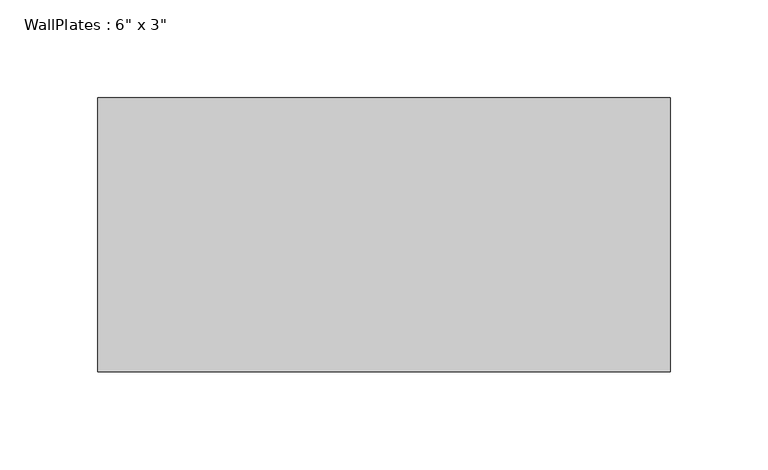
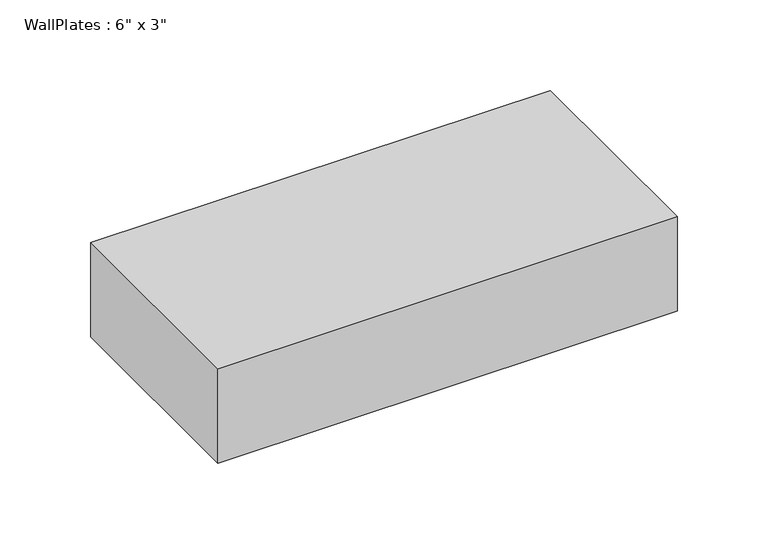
"""IFC4 building model written with IfcOpenShell, lengths in millimetres: beam geometry."""

import ifcopenshell
import ifcopenshell.guid

model = None  # the IFC model being written
_history = None  # IfcOwnerHistory: only IFC2X3 demands one
_inside = {}  # id of a spatial element -> (the spatial element, [elements in it])
_under = {}  # id of a project, library or spatial element -> (it, [spatial elements below it])
_declared = {}  # id of a project -> (the project, [libraries it declares])
_typed = {}  # id of a type object -> (the type object, [elements of that type])
_made_of = {}  # id of a material, layer set ... -> (it, [elements and type objects made of it])


def new_model(schema):
    """Start an empty IFC model of exactly this schema.

    Asked for "IFC4X3", IfcOpenShell would pick the latest addendum, in which some entities
    have other attributes; the version numbers below select the first issue.
    IFC2X3 requires an IfcOwnerHistory on every rooted entity: one is made here for all.
    """
    global model, _history
    if schema == "IFC4X3":
        model = ifcopenshell.file(schema_version=(4, 3, 0, 0))
    else:
        model = ifcopenshell.file(schema=schema)
    _inside.clear()
    _under.clear()
    _declared.clear()
    _typed.clear()
    _made_of.clear()
    _history = None
    if model.schema == "IFC2X3":
        org = make("IfcOrganization", Name="unknown")
        user = make(
            "IfcPersonAndOrganization",
            ThePerson=make("IfcPerson", FamilyName="unknown"),
            TheOrganization=org,
        )
        app = make(
            "IfcApplication",
            ApplicationDeveloper=org,
            Version="unknown",
            ApplicationFullName="unknown",
            ApplicationIdentifier="unknown",
        )
        _history = make(
            "IfcOwnerHistory",
            OwningUser=user,
            OwningApplication=app,
            ChangeAction="ADDED",
            CreationDate=0,
        )
    return model


def make(cls, **values):
    """One entity of the class cls with the attributes given. An attribute that is None is left unset."""
    return model.create_entity(
        cls, **{name: value for name, value in values.items() if value is not None}
    )


def rooted(cls, **values):
    """An entity with a GlobalId (a new one), such as an element, a storey or a relation."""
    return make(cls, GlobalId=ifcopenshell.guid.new(), OwnerHistory=_history, **values)


def si_unit(unit_type, name, prefix=None):
    """IfcSIUnit, for example si_unit("LENGTHUNIT", "METRE", prefix="MILLI")."""
    return make("IfcSIUnit", UnitType=unit_type, Prefix=prefix, Name=name)


def assignment(units):
    """IfcUnitAssignment: the units of a project."""
    return None if units is None else make("IfcUnitAssignment", Units=units)


def point(xyz):
    """IfcCartesianPoint."""
    return None if xyz is None else make("IfcCartesianPoint", Coordinates=xyz)


def direction(xyz):
    """IfcDirection."""
    return None if xyz is None else make("IfcDirection", DirectionRatios=xyz)


def frame(location, z_axis=None, x_axis=None):
    """IfcAxis2Placement3D, a coordinate frame: its origin and axes. An axis left out is left unset."""
    return make(
        "IfcAxis2Placement3D",
        Location=point(location),
        Axis=direction(z_axis),
        RefDirection=direction(x_axis),
    )


def origin():
    """The frame at (0, 0, 0) with its axes left unset."""
    return frame((0.0, 0.0, 0.0))


def place(relative_to, where):
    """IfcLocalPlacement: puts the frame where relative to a parent placement (None: the world)."""
    return make(
        "IfcLocalPlacement", PlacementRelTo=relative_to, RelativePlacement=where
    )


def context(
    kind, dimensions, precision=None, world=None, true_north=None, identifier=None
):
    """IfcGeometricRepresentationContext, for example the 3D "Model" context."""
    return make(
        "IfcGeometricRepresentationContext",
        ContextIdentifier=identifier,
        ContextType=kind,
        CoordinateSpaceDimension=dimensions,
        Precision=precision,
        WorldCoordinateSystem=world,
        TrueNorth=true_north,
    )


def project(units=None, contexts=None):
    """IfcProject with its units and contexts."""
    return rooted(
        "IfcProject",
        Name="project",
        RepresentationContexts=contexts,
        UnitsInContext=assignment(units),
    )


def spatial(cls, under=None, at=None, **own):
    """A site, building, storey or space (cls), placed at a placement, below another one or the project."""
    s = rooted(cls, ObjectPlacement=at, **own)
    if under is not None:
        _under.setdefault(under.id(), (under, []))[1].append(s)
    return s


def polyline(points):
    """IfcPolyline through the points."""
    return make("IfcPolyline", Points=[point(p) for p in points])


def outline(outer, holes=None, kind="AREA"):
    """IfcArbitraryClosedProfileDef: a profile drawn as a closed curve; with holes, ...WithVoids."""
    if holes is None:
        return make("IfcArbitraryClosedProfileDef", ProfileType=kind, OuterCurve=outer)
    return make(
        "IfcArbitraryProfileDefWithVoids",
        ProfileType=kind,
        OuterCurve=outer,
        InnerCurves=holes,
    )


def extrude(swept, where, along, depth):
    """IfcExtrudedAreaSolid: the profile swept, set in the frame where, extruded along a direction by depth."""
    return make(
        "IfcExtrudedAreaSolid",
        SweptArea=swept,
        Position=where,
        ExtrudedDirection=direction(along),
        Depth=depth,
    )


def shape(context_of_items, identifier, shape_type, items):
    """IfcShapeRepresentation: the items that make up one representation, for example the "Body"."""
    return make(
        "IfcShapeRepresentation",
        ContextOfItems=context_of_items,
        RepresentationIdentifier=identifier,
        RepresentationType=shape_type,
        Items=items,
    )


def source(mapping_origin, context_of_items, identifier, shape_type, items):
    """IfcRepresentationMap: a shape defined once, which mapped items show again and again."""
    return make(
        "IfcRepresentationMap",
        MappingOrigin=mapping_origin,
        MappedRepresentation=shape(context_of_items, identifier, shape_type, items),
    )


def transform(
    local_origin,
    x_axis=None,
    y_axis=None,
    z_axis=None,
    scale=None,
    scale2=None,
    scale3=None,
    uniform=True,
):
    """IfcCartesianTransformationOperator3D, or its non-uniform kind. x_axis, y_axis, z_axis: its Axis1, 2, 3."""
    if uniform:
        return make(
            "IfcCartesianTransformationOperator3D",
            Axis1=direction(x_axis),
            Axis2=direction(y_axis),
            LocalOrigin=point(local_origin),
            Scale=scale,
            Axis3=direction(z_axis),
        )
    return make(
        "IfcCartesianTransformationOperator3DnonUniform",
        Axis1=direction(x_axis),
        Axis2=direction(y_axis),
        LocalOrigin=point(local_origin),
        Scale=scale,
        Axis3=direction(z_axis),
        Scale2=scale2,
        Scale3=scale3,
    )


def mapped(mapping_source, mapping_target):
    """IfcMappedItem: shows the shape of a source again, moved by a transform."""
    return make(
        "IfcMappedItem", MappingSource=mapping_source, MappingTarget=mapping_target
    )


def made_of(thing, what):
    """Note that an element or type object is made of a material, layer set ...; save() writes the relation."""
    if what is not None:
        _made_of.setdefault(what.id(), (what, []))[1].append(thing)
    return thing


def element(
    cls,
    number,
    at=None,
    inside=None,
    cuts=None,
    type_object=None,
    material=None,
    context=None,
    identifier="Body",
    shape_type=None,
    held_by="IfcProductDefinitionShape",
    body=None,
    shapes=None,
    **own,
):
    """One element of the class cls, such as IfcWall. Its Tag is "e" and its number.

    at: its placement. inside: the storey or other place that contains it. cuts: it is an
    opening in that element (IfcRelVoidsElement). A single representation is given by context,
    identifier, shape_type and body (its items); several are given by shapes. held_by: the class
    of the entity that holds the representations. save() writes the other relations.
    """
    e = rooted(cls, Tag="e%d" % number, ObjectPlacement=at, **own)
    if body is not None:
        shapes = [shape(context, identifier, shape_type, body)]
    if shapes is not None:
        e.Representation = make(held_by, Representations=shapes)
    if inside is not None:
        _inside.setdefault(inside.id(), (inside, []))[1].append(e)
    if cuts is not None:
        rooted(
            "IfcRelVoidsElement", RelatingBuildingElement=cuts, RelatedOpeningElement=e
        )
    if type_object is not None:
        _typed.setdefault(type_object.id(), (type_object, []))[1].append(e)
    return made_of(e, material)


def aggregate(whole, parts):
    """IfcRelAggregates: a whole, such as a stair, and the parts it consists of."""
    return rooted("IfcRelAggregates", RelatingObject=whole, RelatedObjects=parts)


def save(model, path):
    """Write the relations noted so far, then the file.

    IfcRelAggregates (storeys below a building ...), IfcRelContainedInSpatialStructure (elements
    in a storey), IfcRelDefinesByType, IfcRelAssociatesMaterial and IfcRelDeclares: one each for
    every whole, place, type object, material and project.
    """
    for whole, parts in _under.values():
        aggregate(whole, parts)
    for where, things in _inside.values():
        rooted(
            "IfcRelContainedInSpatialStructure",
            RelatedElements=things,
            RelatingStructure=where,
        )
    for kind, things in _typed.values():
        rooted("IfcRelDefinesByType", RelatedObjects=things, RelatingType=kind)
    for what, things in _made_of.values():
        rooted("IfcRelAssociatesMaterial", RelatedObjects=things, RelatingMaterial=what)
    for by, libraries in _declared.values():
        rooted("IfcRelDeclares", RelatingContext=by, RelatedDefinitions=libraries)
    model.write(path)


def beam_3e93aa5a(model_context):
    return source(origin(), model_context, "Body", "SweptSolid", [
        extrude(outline(polyline([(-146.055, -69.85), (-146.055, 69.85), (146.055, 69.85), (146.055, -69.85), (-146.055, -69.85)])), frame((0.0, 0.0, -31.75), z_axis=(0.0, 0.0, 1.0), x_axis=(1.0, 0.0, 0.0)), (0.0, 0.0, 1.0), 63.5),
    ])


if __name__ == "__main__":
    model = new_model("IFC4")
    model_context = context("Model", 3, world=origin())
    ifc_project = project(units=[si_unit("LENGTHUNIT", "METRE", prefix="MILLI")], contexts=[model_context])
    site = spatial("IfcSite", under=ifc_project)
    building = spatial("IfcBuilding", under=site)
    placement = place(None, origin())
    beam_shape = beam_3e93aa5a(model_context)
    element("IfcBeam", 1, ObjectType="WallPlates : 6\" x 3\"", at=placement, inside=building, context=model_context, shape_type="MappedRepresentation", body=[
        mapped(beam_shape, transform((0.0, 0.0, 0.0), x_axis=(1.0, 0.0, 0.0), y_axis=(0.0, 1.0, 0.0), z_axis=(0.0, 0.0, 1.0))),
    ])
    save(model, "model.ifc")
